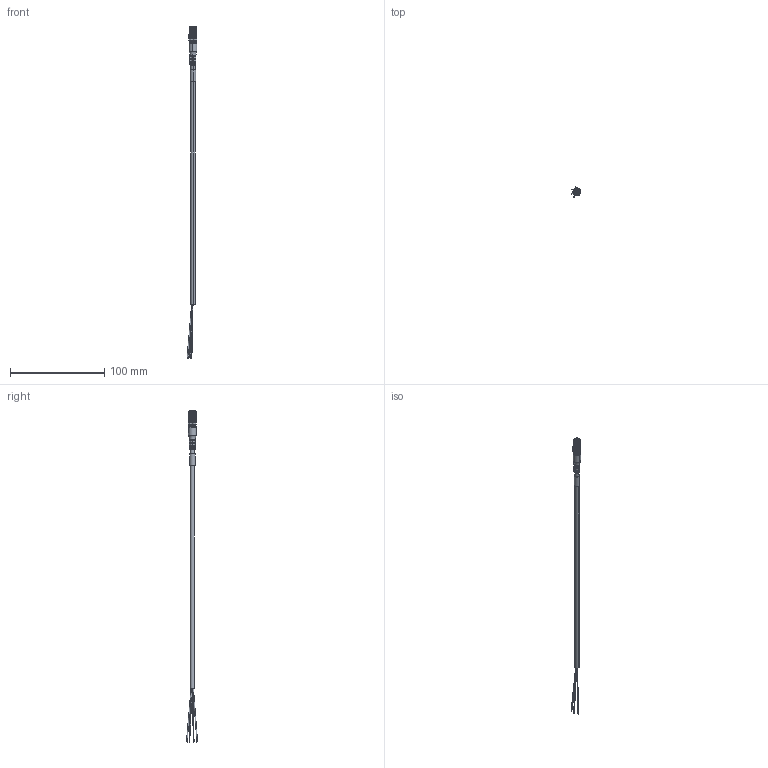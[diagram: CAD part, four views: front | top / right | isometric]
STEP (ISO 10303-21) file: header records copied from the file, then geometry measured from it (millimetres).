
FILE_DESCRIPTION((''),'2;1');
FILE_NAME('889P-M4AB-2','2015-03-24T',('20066374'),('Rockwell Automation'),'PRO/ENGINEER BY PARAMETRIC TECHNOLOGY CORPORATION, 2009140','PRO/ENGINEER BY PARAMETRIC TECHNOLOGY CORPORATION, 2009140','');
FILE_SCHEMA(('CONFIG_CONTROL_DESIGN'));
Length unit declared in the file: inch
Products named in the file (1): 889P-M4AB-2
Bounding box: 10.53 x 11.8 x 352.47 mm (x, y, z)
Volume: 5962.5 mm3; surface area: 5902 mm2
Topology: 4 solids, 4 shells, 419 faces, 1031 edges, 640 vertices
Faces by surface type: plane 182, cylinder 173, cone 42, torus 22
Entity records: 12721 total; most frequent: CARTESIAN_POINT 2648, DIRECTION 2191, ORIENTED_EDGE 2062, EDGE_CURVE 1031, AXIS2_PLACEMENT_3D 839, VERTEX_POINT 640, VECTOR 513, LINE 513
